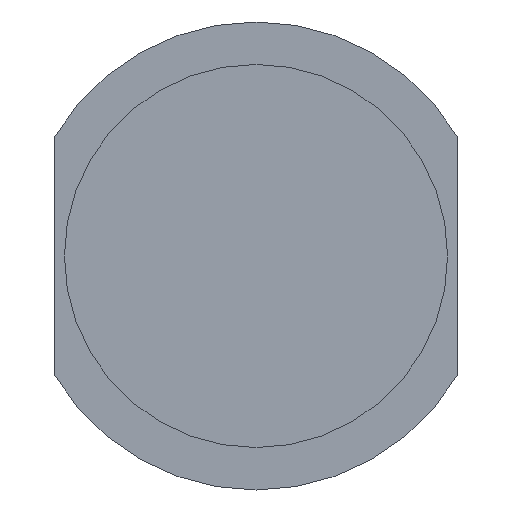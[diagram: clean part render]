
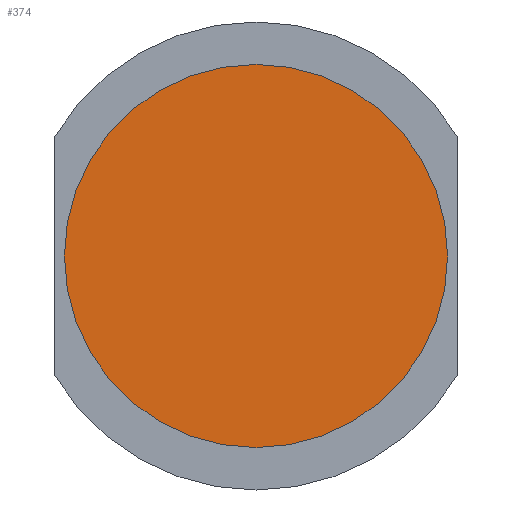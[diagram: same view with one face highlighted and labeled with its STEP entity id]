
A CAD part, left-side view. The second image highlights one B-rep face of the part: STEP entity #374.
In plain terms, the highlighted planar face has unit normal (-1, 0, 0).
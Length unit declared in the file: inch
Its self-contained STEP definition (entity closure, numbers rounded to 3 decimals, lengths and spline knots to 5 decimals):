
#6 = DIRECTION ( 'NONE',  ( 1., 0., 0. ) ) ;
#14 = DIRECTION ( 'NONE',  ( 0., 0., -1. ) ) ;
#32 = CARTESIAN_POINT ( 'NONE',  ( -1.198, 0.265, 0. ) ) ;
#68 = CARTESIAN_POINT ( 'NONE',  ( -1.198, 0., -0.3275 ) ) ;
#89 = CARTESIAN_POINT ( 'NONE',  ( -1.198, 0., 0.3275 ) ) ;
#100 = DIRECTION ( 'NONE',  ( 0., 0., -1. ) ) ;
#103 = CARTESIAN_POINT ( 'NONE',  ( -1.198, 0., 0. ) ) ;
#114 = PLANE ( 'NONE',  #416 ) ;
#118 = DIRECTION ( 'NONE',  ( 1., 0., 0. ) ) ;
#168 = CARTESIAN_POINT ( 'NONE',  ( -1.198, 0., 0. ) ) ;
#169 = DIRECTION ( 'NONE',  ( 1., 0., 0. ) ) ;
#170 = DIRECTION ( 'NONE',  ( 0., 0., -1. ) ) ;
#197 = VERTEX_POINT ( 'NONE', #89 ) ;
#224 = VERTEX_POINT ( 'NONE', #68 ) ;
#247 = CIRCLE ( 'NONE', #396, 0.3275 ) ;
#275 = CIRCLE ( 'NONE', #409, 0.3275 ) ;
#324 = EDGE_LOOP ( 'NONE', ( #332, #337 ) ) ;
#332 = ORIENTED_EDGE ( 'NONE', *, *, #454, .F. ) ;
#337 = ORIENTED_EDGE ( 'NONE', *, *, #431, .F. ) ;
#363 = FACE_OUTER_BOUND ( 'NONE', #324, .T. ) ;
#374 = ADVANCED_FACE ( 'NONE', ( #363 ), #114, .F. ) ;
#396 = AXIS2_PLACEMENT_3D ( 'NONE', #103, #118, #100 ) ;
#409 = AXIS2_PLACEMENT_3D ( 'NONE', #168, #169, #170 ) ;
#416 = AXIS2_PLACEMENT_3D ( 'NONE', #32, #6, #14 ) ;
#431 = EDGE_CURVE ( 'NONE', #197, #224, #275, .T. ) ;
#454 = EDGE_CURVE ( 'NONE', #224, #197, #247, .T. ) ;
